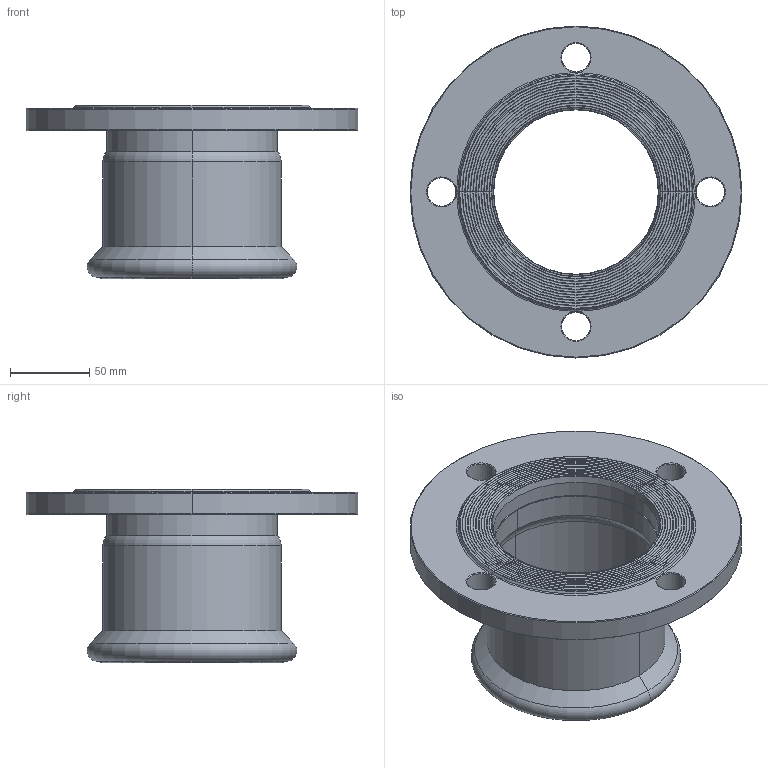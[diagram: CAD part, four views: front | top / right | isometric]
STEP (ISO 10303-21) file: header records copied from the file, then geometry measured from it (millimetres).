
FILE_DESCRIPTION(('Creo Elements/Direct Modeling STEP Export'),'2;1');
FILE_NAME('6206640.stp','2022-03-16T16:10:38',(''),(''),'PTC Creo Elements/Direct Modeling STEP processor for AP214 (Solid Model)','PTC Creo Elements/Direct Modeling 19.0C 15-Aug-2015 (C) Parametric Technology GmbH','');
FILE_SCHEMA(('AUTOMOTIVE_DESIGN { 1 0 10303 214 1 1 1 1 }'));
Length unit declared in the file: millimetre
Products named in the file (1): C1427_108
Bounding box: 210 x 210 x 109.69 mm (x, y, z)
Volume: 477390.9 mm3; surface area: 138150.6 mm2
Topology: 1 solids, 1 shells, 114 faces, 247 edges, 145 vertices
Faces by surface type: cone 44, torus 32, cylinder 22, plane 16
Entity records: 2938 total; most frequent: CARTESIAN_POINT 595, ORIENTED_EDGE 494, DIRECTION 486, EDGE_CURVE 247, AXIS2_PLACEMENT_3D 210, VERTEX_POINT 145, EDGE_LOOP 134, FACE_OUTER_BOUND 114
